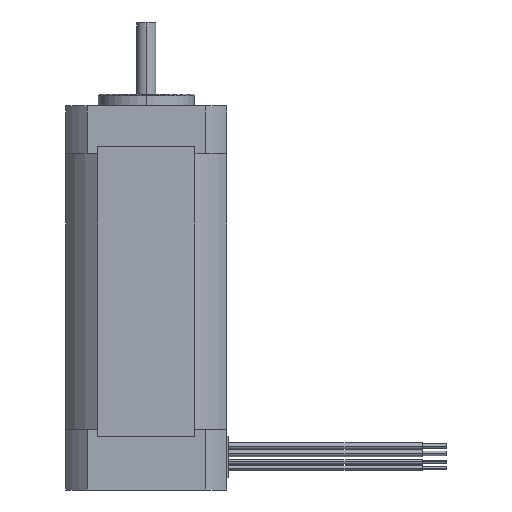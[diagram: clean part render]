
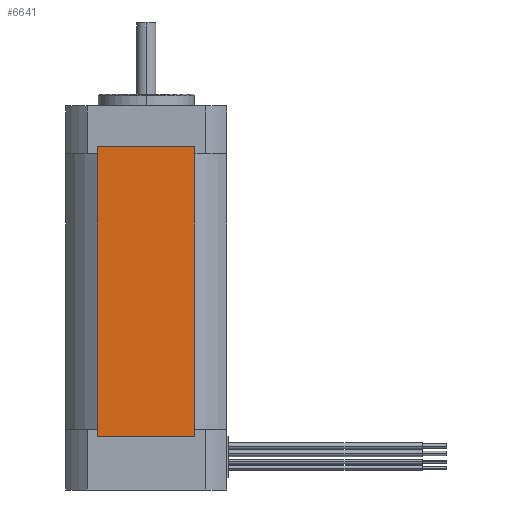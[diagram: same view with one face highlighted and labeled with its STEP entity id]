
A CAD part, left-side view. The second image highlights one B-rep face of the part: STEP entity #6641.
In plain terms, the highlighted planar face has unit normal (-1, 0, 0).
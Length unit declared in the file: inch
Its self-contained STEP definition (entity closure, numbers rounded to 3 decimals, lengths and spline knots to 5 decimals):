
#104 = CARTESIAN_POINT ( 'NONE',  ( -0.826, -0.49895, -0.42 ) ) ;
#115 = CARTESIAN_POINT ( 'NONE',  ( -0.826, 0.49895, -3.387 ) ) ;
#264 = CARTESIAN_POINT ( 'NONE',  ( -0.826, 0.49895, -0.42 ) ) ;
#517 = LINE ( 'NONE', #518, #2545 ) ;
#518 = CARTESIAN_POINT ( 'NONE',  ( -0.826, -0.49895, -3.387 ) ) ;
#519 = DIRECTION ( 'NONE',  ( 0., 0., 1. ) ) ;
#1059 = LINE ( 'NONE', #1061, #5024 ) ;
#1061 = CARTESIAN_POINT ( 'NONE',  ( -0.826, -0.49895, -0.42 ) ) ;
#1062 = DIRECTION ( 'NONE',  ( 0., 1., 0. ) ) ;
#2338 = CARTESIAN_POINT ( 'NONE',  ( -0.826, 0.49895, -3.387 ) ) ;
#2342 = LINE ( 'NONE', #2338, #5604 ) ;
#2346 = DIRECTION ( 'NONE',  ( 0., 0., 1. ) ) ;
#2545 = VECTOR ( 'NONE', #519, 39.37008 ) ;
#3185 = ORIENTED_EDGE ( 'NONE', *, *, #6589, .T. ) ;
#3186 = ORIENTED_EDGE ( 'NONE', *, *, #6896, .F. ) ;
#3187 = ORIENTED_EDGE ( 'NONE', *, *, #6779, .F. ) ;
#3188 = ORIENTED_EDGE ( 'NONE', *, *, #8605, .T. ) ;
#3456 = AXIS2_PLACEMENT_3D ( 'NONE', #4697, #4699, #4701 ) ;
#4458 = EDGE_LOOP ( 'NONE', ( #3185, #3186, #3187, #3188 ) ) ;
#4659 = FACE_OUTER_BOUND ( 'NONE', #4458, .T. ) ;
#4662 = PLANE ( 'NONE',  #3456 ) ;
#4697 = CARTESIAN_POINT ( 'NONE',  ( -0.826, -0.49895, -3.387 ) ) ;
#4699 = DIRECTION ( 'NONE',  ( 1., 0., 0. ) ) ;
#4701 = DIRECTION ( 'NONE',  ( 0., 1., 0. ) ) ;
#4760 = CARTESIAN_POINT ( 'NONE',  ( -0.826, -0.49895, -3.387 ) ) ;
#4770 = VERTEX_POINT ( 'NONE', #4760 ) ;
#5024 = VECTOR ( 'NONE', #1062, 39.37008 ) ;
#5307 = VECTOR ( 'NONE', #8389, 39.37008 ) ;
#5604 = VECTOR ( 'NONE', #2346, 39.37008 ) ;
#6589 = EDGE_CURVE ( 'NONE', #7365, #7526, #1059, .T. ) ;
#6641 = ADVANCED_FACE ( 'NONE', ( #4659 ), #4662, .F. ) ;
#6779 = EDGE_CURVE ( 'NONE', #4770, #7377, #8385, .T. ) ;
#6896 = EDGE_CURVE ( 'NONE', #7377, #7526, #2342, .T. ) ;
#7365 = VERTEX_POINT ( 'NONE', #104 ) ;
#7377 = VERTEX_POINT ( 'NONE', #115 ) ;
#7526 = VERTEX_POINT ( 'NONE', #264 ) ;
#8381 = CARTESIAN_POINT ( 'NONE',  ( -0.826, -0.49895, -3.387 ) ) ;
#8385 = LINE ( 'NONE', #8381, #5307 ) ;
#8389 = DIRECTION ( 'NONE',  ( 0., 1., 0. ) ) ;
#8605 = EDGE_CURVE ( 'NONE', #4770, #7365, #517, .T. ) ;
